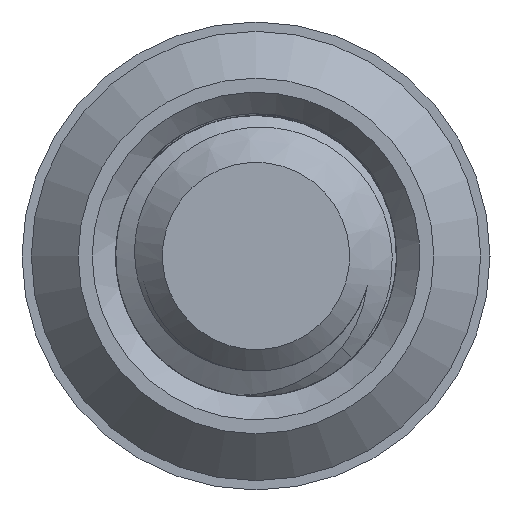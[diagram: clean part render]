
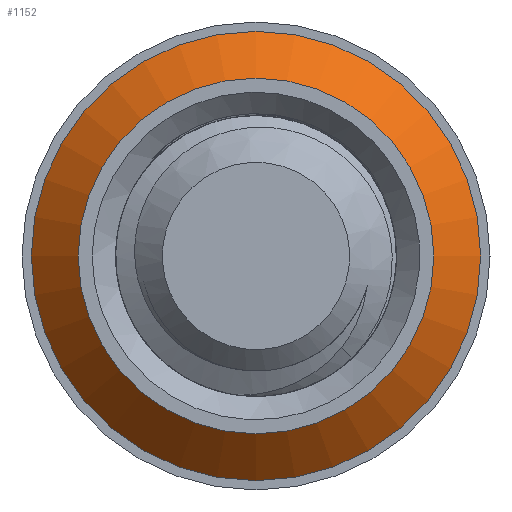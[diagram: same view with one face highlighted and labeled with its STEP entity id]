
A CAD part, front view. The second image highlights one B-rep face of the part: STEP entity #1152.
In plain terms, the highlighted conical face has half-angle 45 degrees and reference radius 1.9 mm.
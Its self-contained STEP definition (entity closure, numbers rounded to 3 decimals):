
#30 = EDGE_LOOP ( 'NONE', ( #7540 ) ) ;
#184 = EDGE_LOOP ( 'NONE', ( #1082 ) ) ;
#196 = DIRECTION ( 'NONE',  ( -1., 0., 0. ) ) ;
#246 = AXIS2_PLACEMENT_3D ( 'NONE', #7789, #4801, #196 ) ;
#368 = DIRECTION ( 'NONE',  ( -1., 0., 0. ) ) ;
#479 = CARTESIAN_POINT ( 'NONE',  ( -2.569, -13.448, 25.4 ) ) ;
#1082 = ORIENTED_EDGE ( 'NONE', *, *, #9858, .F. ) ;
#1138 = CONICAL_SURFACE ( 'NONE', #246, 1.9, 0.785 ) ;
#1152 = ADVANCED_FACE ( 'NONE', ( #3455, #2366 ), #1138, .T. ) ;
#1393 = CARTESIAN_POINT ( 'NONE',  ( -4.469, -13.448, 25.4 ) ) ;
#2366 = FACE_BOUND ( 'NONE', #30, .T. ) ;
#3326 = EDGE_CURVE ( 'NONE', #7828, #7828, #5678, .T. ) ;
#3455 = FACE_OUTER_BOUND ( 'NONE', #184, .T. ) ;
#3535 = AXIS2_PLACEMENT_3D ( 'NONE', #3581, #5075, #368 ) ;
#3581 = CARTESIAN_POINT ( 'NONE',  ( -2.569, -12.948, 25.4 ) ) ;
#3751 = CARTESIAN_POINT ( 'NONE',  ( -4.969, -12.948, 25.4 ) ) ;
#4801 = DIRECTION ( 'NONE',  ( 0., 1., 0. ) ) ;
#5075 = DIRECTION ( 'NONE',  ( 0., 1., 0. ) ) ;
#5220 = DIRECTION ( 'NONE',  ( 0., -1., 0. ) ) ;
#5678 = CIRCLE ( 'NONE', #7203, 1.9 ) ;
#5950 = DIRECTION ( 'NONE',  ( -1., 0., 0. ) ) ;
#7203 = AXIS2_PLACEMENT_3D ( 'NONE', #479, #5220, #5950 ) ;
#7540 = ORIENTED_EDGE ( 'NONE', *, *, #3326, .F. ) ;
#7789 = CARTESIAN_POINT ( 'NONE',  ( -2.569, -13.448, 25.4 ) ) ;
#7828 = VERTEX_POINT ( 'NONE', #1393 ) ;
#8197 = CIRCLE ( 'NONE', #3535, 2.4 ) ;
#8937 = VERTEX_POINT ( 'NONE', #3751 ) ;
#9858 = EDGE_CURVE ( 'NONE', #8937, #8937, #8197, .T. ) ;
